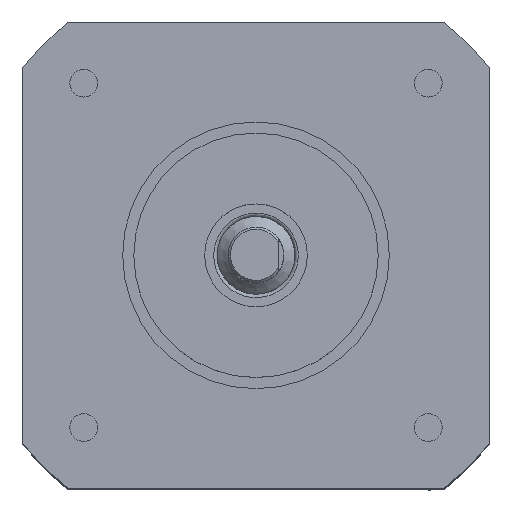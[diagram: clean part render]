
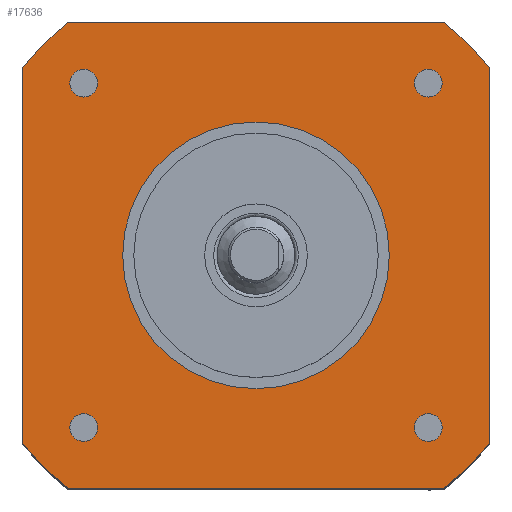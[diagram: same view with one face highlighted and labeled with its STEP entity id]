
A CAD part, top view. The second image highlights one B-rep face of the part: STEP entity #17636.
In plain terms, the highlighted planar face has unit normal (0, 0, 1).
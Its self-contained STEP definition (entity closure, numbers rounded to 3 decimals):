
#3715 = CIRCLE ( 'NONE', #97344, 26.95 ) ;
#3817 = VERTEX_POINT ( 'NONE', #138163 ) ;
#5423 = DIRECTION ( 'NONE',  ( 1., 0., 0. ) ) ;
#7512 = CARTESIAN_POINT ( 'NONE',  ( -31., 21., -2. ) ) ;
#7629 = VERTEX_POINT ( 'NONE', #143113 ) ;
#7967 = AXIS2_PLACEMENT_3D ( 'NONE', #7512, #60085, #87609 ) ;
#12610 = CIRCLE ( 'NONE', #26268, 26.95 ) ;
#12744 = DIRECTION ( 'NONE',  ( 0., 0., 1. ) ) ;
#13501 = CIRCLE ( 'NONE', #7967, 26.95 ) ;
#16341 = CARTESIAN_POINT ( 'NONE',  ( -31., 21., -2. ) ) ;
#16701 = LINE ( 'NONE', #121757, #130464 ) ;
#16755 = DIRECTION ( 'NONE',  ( 0., -1., 0. ) ) ;
#17527 = ORIENTED_EDGE ( 'NONE', *, *, #146158, .F. ) ;
#17636 = ADVANCED_FACE ( 'NONE', ( #125977, #135526, #110486, #86375, #33864, #99307 ), #46794, .T. ) ;
#17762 = EDGE_CURVE ( 'NONE', #55780, #165301, #138077, .T. ) ;
#17817 = CARTESIAN_POINT ( 'NONE',  ( -10., 37.891, -2. ) ) ;
#19224 = DIRECTION ( 'NONE',  ( 1., 0., 0. ) ) ;
#20072 = CARTESIAN_POINT ( 'NONE',  ( -47.891, 42., -2. ) ) ;
#20594 = EDGE_CURVE ( 'NONE', #165791, #21104, #16701, .T. ) ;
#21104 = VERTEX_POINT ( 'NONE', #117725 ) ;
#24866 = CARTESIAN_POINT ( 'NONE',  ( -52., 37.891, -2. ) ) ;
#26268 = AXIS2_PLACEMENT_3D ( 'NONE', #73320, #100051, #151768 ) ;
#31802 = CARTESIAN_POINT ( 'NONE',  ( -14.25, 5.5, -2. ) ) ;
#33864 = FACE_BOUND ( 'NONE', #65414, .T. ) ;
#35158 = VECTOR ( 'NONE', #16755, 1000. ) ;
#35744 = CARTESIAN_POINT ( 'NONE',  ( -14.25, 36.5, -2. ) ) ;
#38622 = DIRECTION ( 'NONE',  ( 1., 0., 0. ) ) ;
#43225 = DIRECTION ( 'NONE',  ( 1., 0., 0. ) ) ;
#46794 = PLANE ( 'NONE',  #67516 ) ;
#50899 = DIRECTION ( 'NONE',  ( 0., 0., 1. ) ) ;
#53573 = CARTESIAN_POINT ( 'NONE',  ( -47.891, 42., -2. ) ) ;
#55780 = VERTEX_POINT ( 'NONE', #53573 ) ;
#56805 = VERTEX_POINT ( 'NONE', #31802 ) ;
#59246 = EDGE_CURVE ( 'NONE', #61584, #61584, #145714, .T. ) ;
#60085 = DIRECTION ( 'NONE',  ( 0., 0., -1. ) ) ;
#61584 = VERTEX_POINT ( 'NONE', #35744 ) ;
#62453 = EDGE_CURVE ( 'NONE', #21104, #7629, #165732, .T. ) ;
#62537 = CARTESIAN_POINT ( 'NONE',  ( -10., 4.109, -2. ) ) ;
#63276 = EDGE_LOOP ( 'NONE', ( #85412, #159143, #142981, #141053, #159635, #120340, #149751, #165335 ) ) ;
#63816 = DIRECTION ( 'NONE',  ( 1., 0., 0. ) ) ;
#65414 = EDGE_LOOP ( 'NONE', ( #159768 ) ) ;
#67516 = AXIS2_PLACEMENT_3D ( 'NONE', #111327, #152708, #19224 ) ;
#67555 = EDGE_LOOP ( 'NONE', ( #90620 ) ) ;
#68857 = DIRECTION ( 'NONE',  ( 0., 0., -1. ) ) ;
#69216 = DIRECTION ( 'NONE',  ( -1., 0., 0. ) ) ;
#71439 = AXIS2_PLACEMENT_3D ( 'NONE', #168865, #50899, #80979 ) ;
#73320 = CARTESIAN_POINT ( 'NONE',  ( -31., 21., -2. ) ) ;
#74168 = DIRECTION ( 'NONE',  ( 0., 1., 0. ) ) ;
#75257 = ORIENTED_EDGE ( 'NONE', *, *, #114627, .F. ) ;
#75841 = CARTESIAN_POINT ( 'NONE',  ( -52., 37.891, -2. ) ) ;
#76733 = DIRECTION ( 'NONE',  ( 0., 0., 1. ) ) ;
#79632 = CARTESIAN_POINT ( 'NONE',  ( -10., 37.891, -2. ) ) ;
#80979 = DIRECTION ( 'NONE',  ( 1., 0., 0. ) ) ;
#81983 = CARTESIAN_POINT ( 'NONE',  ( -46.5, 36.5, -2. ) ) ;
#82789 = DIRECTION ( 'NONE',  ( 0., 0., -1. ) ) ;
#82978 = EDGE_LOOP ( 'NONE', ( #17527 ) ) ;
#83890 = EDGE_CURVE ( 'NONE', #128387, #147658, #144275, .T. ) ;
#84048 = CIRCLE ( 'NONE', #116943, 1.25 ) ;
#84588 = EDGE_CURVE ( 'NONE', #7629, #106730, #154269, .T. ) ;
#85412 = ORIENTED_EDGE ( 'NONE', *, *, #17762, .F. ) ;
#85597 = CARTESIAN_POINT ( 'NONE',  ( -19., 21., -2. ) ) ;
#85982 = DIRECTION ( 'NONE',  ( 1., 0., 0. ) ) ;
#86375 = FACE_BOUND ( 'NONE', #95774, .T. ) ;
#87153 = CARTESIAN_POINT ( 'NONE',  ( -46.5, 5.5, -2. ) ) ;
#87609 = DIRECTION ( 'NONE',  ( 1., 0., 0. ) ) ;
#89338 = AXIS2_PLACEMENT_3D ( 'NONE', #87153, #76733, #63816 ) ;
#90286 = VECTOR ( 'NONE', #74168, 1000. ) ;
#90620 = ORIENTED_EDGE ( 'NONE', *, *, #59246, .F. ) ;
#95526 = EDGE_CURVE ( 'NONE', #106730, #55780, #3715, .T. ) ;
#95774 = EDGE_LOOP ( 'NONE', ( #115540 ) ) ;
#97033 = EDGE_LOOP ( 'NONE', ( #75257 ) ) ;
#97344 = AXIS2_PLACEMENT_3D ( 'NONE', #97469, #82789, #43225 ) ;
#97469 = CARTESIAN_POINT ( 'NONE',  ( -31., 21., -2. ) ) ;
#99307 = FACE_OUTER_BOUND ( 'NONE', #63276, .T. ) ;
#99764 = CARTESIAN_POINT ( 'NONE',  ( -15.5, 5.5, -2. ) ) ;
#100051 = DIRECTION ( 'NONE',  ( 0., 0., -1. ) ) ;
#100555 = AXIS2_PLACEMENT_3D ( 'NONE', #117807, #12744, #38622 ) ;
#101776 = CARTESIAN_POINT ( 'NONE',  ( -14.109, 42., -2. ) ) ;
#103493 = EDGE_CURVE ( 'NONE', #147658, #165791, #13501, .T. ) ;
#106730 = VERTEX_POINT ( 'NONE', #24866 ) ;
#110486 = FACE_BOUND ( 'NONE', #82978, .T. ) ;
#111327 = CARTESIAN_POINT ( 'NONE',  ( -31., 21., -2. ) ) ;
#111397 = VERTEX_POINT ( 'NONE', #163974 ) ;
#111563 = CIRCLE ( 'NONE', #100555, 12. ) ;
#114316 = DIRECTION ( 'NONE',  ( 0., 0., 1. ) ) ;
#114627 = EDGE_CURVE ( 'NONE', #56805, #56805, #132408, .T. ) ;
#115540 = ORIENTED_EDGE ( 'NONE', *, *, #149638, .F. ) ;
#115872 = AXIS2_PLACEMENT_3D ( 'NONE', #99764, #114316, #85982 ) ;
#116943 = AXIS2_PLACEMENT_3D ( 'NONE', #81983, #147469, #123320 ) ;
#117725 = CARTESIAN_POINT ( 'NONE',  ( -47.891, 0., -2. ) ) ;
#117807 = CARTESIAN_POINT ( 'NONE',  ( -31., 21., -2. ) ) ;
#120340 = ORIENTED_EDGE ( 'NONE', *, *, #103493, .F. ) ;
#121409 = DIRECTION ( 'NONE',  ( 1., 0., 0. ) ) ;
#121757 = CARTESIAN_POINT ( 'NONE',  ( -47.891, 0., -2. ) ) ;
#123320 = DIRECTION ( 'NONE',  ( 1., 0., 0. ) ) ;
#125977 = FACE_BOUND ( 'NONE', #67555, .T. ) ;
#128387 = VERTEX_POINT ( 'NONE', #17817 ) ;
#130464 = VECTOR ( 'NONE', #69216, 1000. ) ;
#132408 = CIRCLE ( 'NONE', #115872, 1.25 ) ;
#135526 = FACE_BOUND ( 'NONE', #97033, .T. ) ;
#136401 = VECTOR ( 'NONE', #5423, 1000. ) ;
#138077 = LINE ( 'NONE', #20072, #136401 ) ;
#138163 = CARTESIAN_POINT ( 'NONE',  ( -45.25, 36.5, -2. ) ) ;
#141053 = ORIENTED_EDGE ( 'NONE', *, *, #62453, .F. ) ;
#142981 = ORIENTED_EDGE ( 'NONE', *, *, #84588, .F. ) ;
#143113 = CARTESIAN_POINT ( 'NONE',  ( -52., 4.109, -2. ) ) ;
#144275 = LINE ( 'NONE', #79632, #35158 ) ;
#145714 = CIRCLE ( 'NONE', #71439, 1.25 ) ;
#146158 = EDGE_CURVE ( 'NONE', #111397, #111397, #155351, .T. ) ;
#147102 = EDGE_CURVE ( 'NONE', #165301, #128387, #12610, .T. ) ;
#147469 = DIRECTION ( 'NONE',  ( 0., 0., 1. ) ) ;
#147492 = EDGE_CURVE ( 'NONE', #163136, #163136, #111563, .T. ) ;
#147658 = VERTEX_POINT ( 'NONE', #62537 ) ;
#149638 = EDGE_CURVE ( 'NONE', #3817, #3817, #84048, .T. ) ;
#149751 = ORIENTED_EDGE ( 'NONE', *, *, #83890, .F. ) ;
#151768 = DIRECTION ( 'NONE',  ( 1., 0., 0. ) ) ;
#152708 = DIRECTION ( 'NONE',  ( 0., 0., 1. ) ) ;
#154269 = LINE ( 'NONE', #75841, #90286 ) ;
#155351 = CIRCLE ( 'NONE', #89338, 1.25 ) ;
#157505 = AXIS2_PLACEMENT_3D ( 'NONE', #16341, #68857, #121409 ) ;
#159143 = ORIENTED_EDGE ( 'NONE', *, *, #95526, .F. ) ;
#159635 = ORIENTED_EDGE ( 'NONE', *, *, #20594, .F. ) ;
#159768 = ORIENTED_EDGE ( 'NONE', *, *, #147492, .F. ) ;
#163136 = VERTEX_POINT ( 'NONE', #85597 ) ;
#163974 = CARTESIAN_POINT ( 'NONE',  ( -45.25, 5.5, -2. ) ) ;
#165301 = VERTEX_POINT ( 'NONE', #101776 ) ;
#165335 = ORIENTED_EDGE ( 'NONE', *, *, #147102, .F. ) ;
#165341 = CARTESIAN_POINT ( 'NONE',  ( -14.109, 0., -2. ) ) ;
#165732 = CIRCLE ( 'NONE', #157505, 26.95 ) ;
#165791 = VERTEX_POINT ( 'NONE', #165341 ) ;
#168865 = CARTESIAN_POINT ( 'NONE',  ( -15.5, 36.5, -2. ) ) ;
